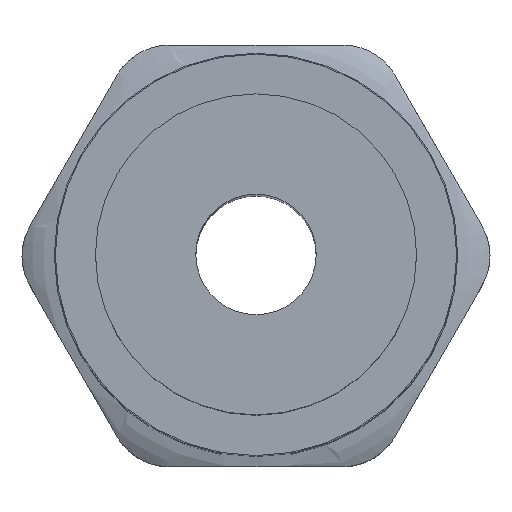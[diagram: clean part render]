
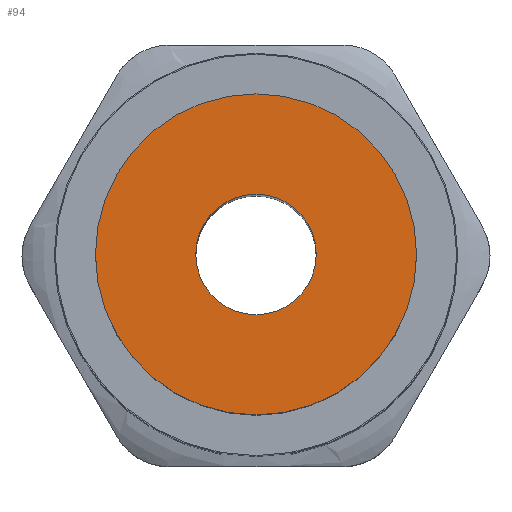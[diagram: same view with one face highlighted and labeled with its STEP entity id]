
A CAD part, top view. The second image highlights one B-rep face of the part: STEP entity #94.
In plain terms, the highlighted planar face has unit normal (0, 0, 1).
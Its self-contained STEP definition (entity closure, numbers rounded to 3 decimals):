
#94=ADVANCED_FACE('',(#589,#591),#593,.T.);
#589=FACE_BOUND('',#590,.T.);
#590=EDGE_LOOP('',(#976));
#591=FACE_BOUND('',#592,.T.);
#592=EDGE_LOOP('',(#977));
#593=PLANE('',#594);
#594=AXIS2_PLACEMENT_3D('',#595,#596,#597);
#595=CARTESIAN_POINT('',(0.,0.,41.));
#596=DIRECTION('',(0.,0.,1.));
#597=DIRECTION('',(1.,0.,0.));
#976=ORIENTED_EDGE('',*,*,#1223,.T.);
#977=ORIENTED_EDGE('',*,*,#1218,.T.);
#1218=EDGE_CURVE('',#1343,#1343,#1344,.F.);
#1223=EDGE_CURVE('',#1353,#1353,#1354,.T.);
#1343=VERTEX_POINT('',#1553);
#1344=CIRCLE('',#1554,3.);
#1353=VERTEX_POINT('',#1578);
#1354=CIRCLE('',#1579,8.);
#1553=CARTESIAN_POINT('',(3.,0.,41.));
#1554=AXIS2_PLACEMENT_3D('',#1555,#1556,#1557);
#1555=CARTESIAN_POINT('',(0.,0.,41.));
#1556=DIRECTION('',(0.,0.,1.));
#1557=DIRECTION('',(1.,0.,0.));
#1578=CARTESIAN_POINT('',(8.,0.,41.));
#1579=AXIS2_PLACEMENT_3D('',#1580,#1581,#1582);
#1580=CARTESIAN_POINT('',(0.,0.,41.));
#1581=DIRECTION('',(0.,0.,1.));
#1582=DIRECTION('',(1.,0.,0.));
